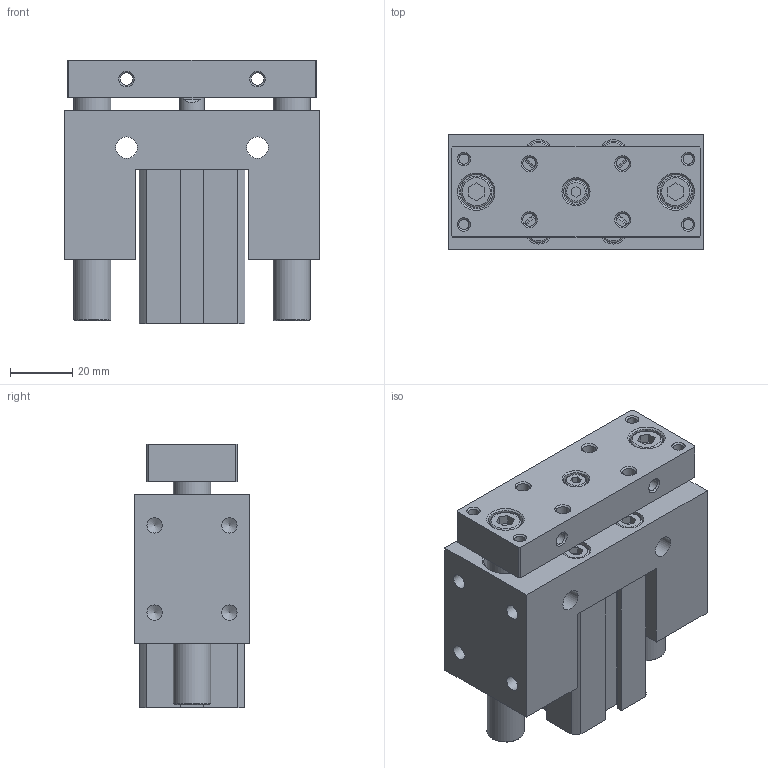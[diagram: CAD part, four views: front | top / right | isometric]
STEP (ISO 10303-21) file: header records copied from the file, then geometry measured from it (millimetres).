
FILE_DESCRIPTION((''),'2;1');
FILE_NAME('I:\3D電子目錄\氣缸\JCB\JCB\JCB20-S\JCB20x20-S.stp','2007-08-21T18:26:48',('Administrator'),(''),'Autodesk Inventor 11','Autodesk Inventor 11','');
FILE_SCHEMA(('AUTOMOTIVE_DESIGN { 1 0 10303 214 1 1 1 1 }'));
Length unit declared in the file: millimetre
Products named in the file (1): JCB20
Bounding box: 82 x 37 x 84.5 mm (x, y, z)
Volume: 173755.2 mm3; surface area: 56893.6 mm2
Topology: 5 solids, 5 shells, 293 faces, 643 edges, 415 vertices
Faces by surface type: plane 150, bspline 53, cylinder 45, cone 37, torus 8
Full cylindrical faces by diameter (mm): 1.5 x2, 4.3 x4, 4.917 x4, 7 x9, 8 x1, 8.5 x4, 9 x1, 10 x2, 12 x2, 13 x2, 14 x2, 22 x4, 23.2 x2
Entity records: 7875 total; most frequent: CARTESIAN_POINT 1985, DIRECTION 1184, ORIENTED_EDGE 992, EDGE_LOOP 504, EDGE_CURVE 496, AXIS2_PLACEMENT_3D 447, VERTEX_POINT 394, FACE_OUTER_BOUND 293
